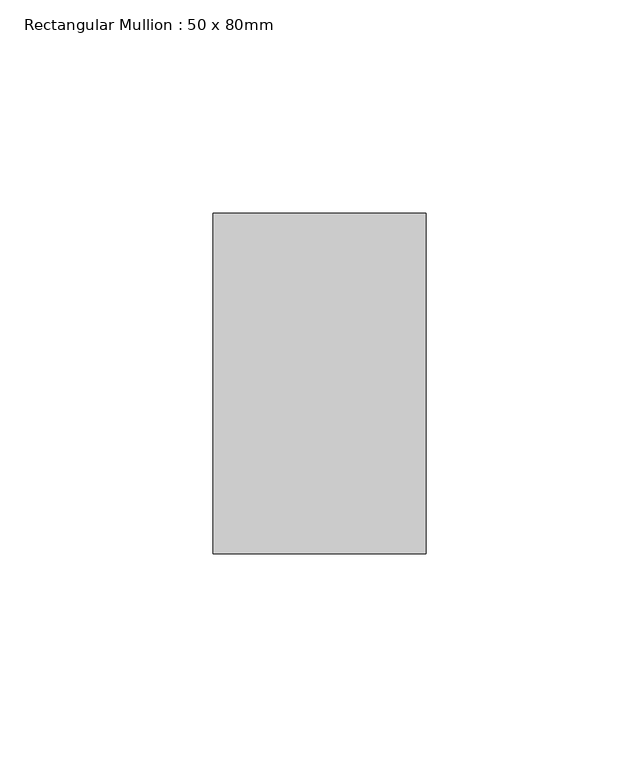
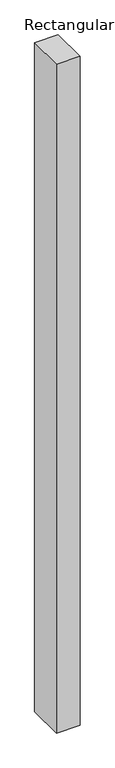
"""IFC4 building model written with IfcOpenShell, lengths in millimetres: member geometry, Rectangular Mullion : 50 x 80mm."""

from ifc_helpers import new_model, si_unit, frame, origin, place, context, project, spatial, polyline, outline, extrude, source, transform, mapped, element, save


def rectangular_mullion_50_x_80mm_a170ba5c(model_context):
    return source(origin(), model_context, "Body", "SweptSolid", [
        extrude(outline(polyline([(0.0, 25.0), (0.0, -55.0), (-50.0, -55.0), (-50.0, 25.0), (0.0, 25.0)])), frame((0.0, 0.0, -1504.9992883), z_axis=(0.0, 0.0, 1.0), x_axis=(1.0, 0.0, 0.0)), (0.0, 0.0, 1.0), 1504.9992883),
    ])


if __name__ == "__main__":
    model = new_model("IFC4")
    model_context = context("Model", 3, world=origin())
    ifc_project = project(units=[si_unit("LENGTHUNIT", "METRE", prefix="MILLI")], contexts=[model_context])
    site = spatial("IfcSite", under=ifc_project)
    building = spatial("IfcBuilding", under=site)
    placement = place(None, origin())
    rectangular_mullion_50_x_80mm_shape = rectangular_mullion_50_x_80mm_a170ba5c(model_context)
    element("IfcMember", 1, ObjectType="Rectangular Mullion : 50 x 80mm", at=placement, inside=building, context=model_context, shape_type="MappedRepresentation", body=[
        mapped(rectangular_mullion_50_x_80mm_shape, transform((0.0, 0.0, 0.0), x_axis=(1.0, 0.0, 0.0), y_axis=(0.0, 1.0, 0.0), z_axis=(0.0, 0.0, 1.0))),
    ])
    save(model, "model.ifc")
